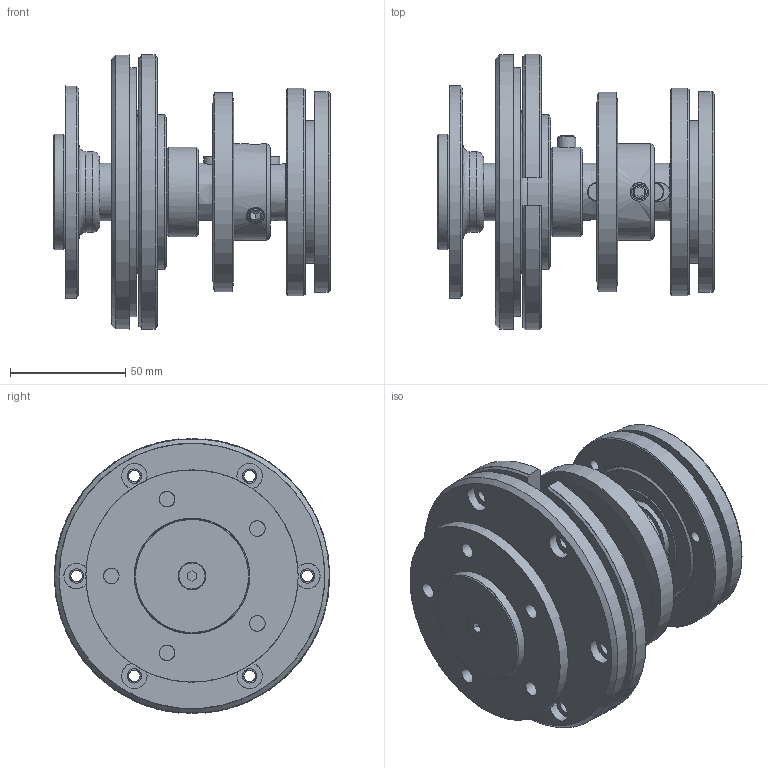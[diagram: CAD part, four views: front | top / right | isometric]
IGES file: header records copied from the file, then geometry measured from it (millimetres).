
Start section: Missler Software 3 rue Hermes, EUROPARC, 31520 Ramonville-Saint-Agne, France Tel   : +33 (0)5 61 00 03 00 Fax   : +33 (0)5 61 00 03 03 Email : sup.solid@topsolid.com
Global section: file name: Z:\J\Jp3\Axe de barre a pignon\Axe de barre 3D\AXE DE BARRE Ø25 INOX 5-8'.igs; native system: TopSolid v611200 Missler Software; preprocessor: IGES preprocessor v100000; author: Alex Rogeon; date: 120223.144430; units: millimetre
Bounding box: 120 x 119.39 x 119 mm (x, y, z)
Surface area: 144204.3 mm2 (no closed solid volume)
Topology: 0 solids, 0 shells, 303 faces, 5084 edges, 4946 vertices
Faces by surface type: bspline 303
